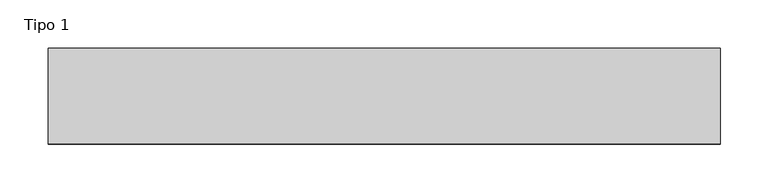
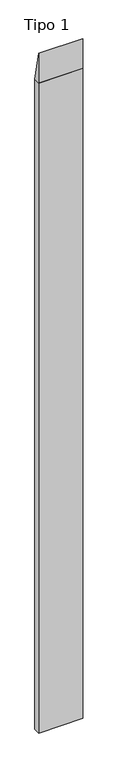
"""IFC4 building model written with IfcOpenShell, lengths in millimetres: proxy geometry, ARQ-MU-EXT-Lad : Tipo 1."""

from ifc_helpers import new_model, si_unit, frame, origin, place, context, project, spatial, polyline, outline, extrude, source, transform, mapped, element, save


def tipo_1_9bd7dcbe(model_context):
    return source(origin(), model_context, "Body", "SweptSolid", [
        extrude(outline(polyline([(340.0, 500.0), (440.0, 0.0), (340.0, 0.0), (340.0, 500.0)])), frame((-225.0, 0.0, 0.0), z_axis=(1.0, 0.0, 0.0), x_axis=(0.0, 1.0, 0.0)), (0.0, 0.0, 1.0), 700.0),
        extrude(outline(polyline([(-225.0, 440.0), (475.0, 440.0), (475.0, 340.0), (-225.0, 340.0), (-225.0, 440.0)])), frame((0.0, 0.0, -10880.0), z_axis=(0.0, 0.0, 1.0), x_axis=(1.0, 0.0, 0.0)), (0.0, 0.0, 1.0), 10880.0),
    ])


if __name__ == "__main__":
    model = new_model("IFC4")
    model_context = context("Model", 3, world=origin())
    ifc_project = project(units=[si_unit("LENGTHUNIT", "METRE", prefix="MILLI")], contexts=[model_context])
    site = spatial("IfcSite", under=ifc_project)
    building = spatial("IfcBuilding", under=site)
    placement = place(None, origin())
    tipo_1_shape = tipo_1_9bd7dcbe(model_context)
    element("IfcBuildingElementProxy", 1, Name="ARQ-MU-EXT-Lad : Tipo 1", ObjectType="ARQ-MU-EXT-Lad : Tipo 1", at=placement, inside=building, context=model_context, shape_type="MappedRepresentation", body=[
        mapped(tipo_1_shape, transform((0.0, 0.0, 0.0), x_axis=(1.0, 0.0, 0.0), y_axis=(0.0, 1.0, 0.0), z_axis=(0.0, 0.0, 1.0))),
    ])
    save(model, "model.ifc")
